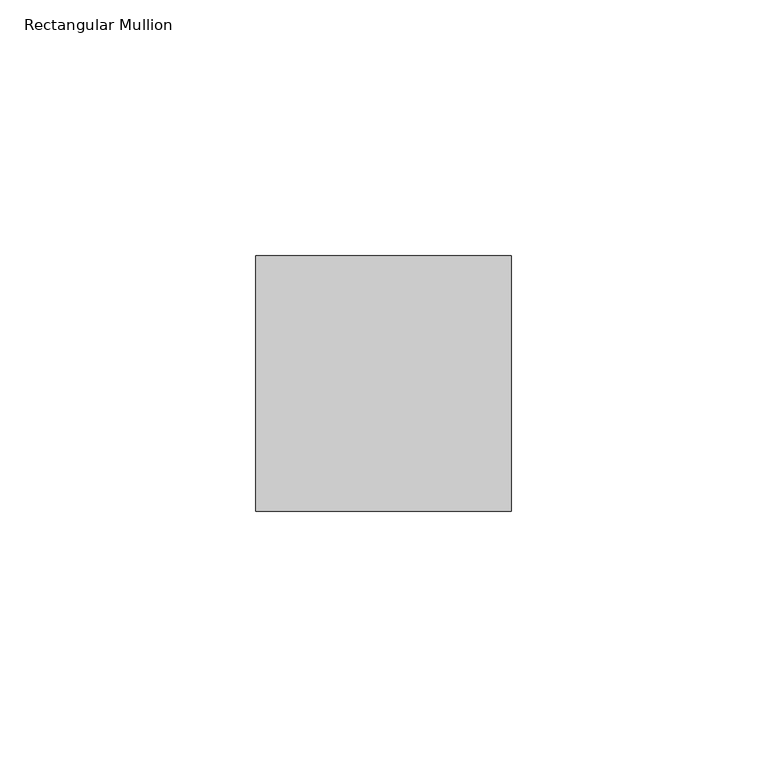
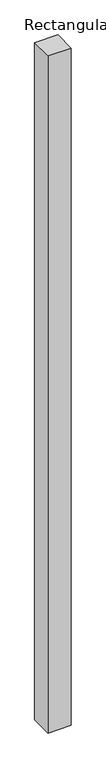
"""IFC4 building model written with IfcOpenShell, lengths in millimetres: member geometry, Rectangular Mullion : Mullion_Curtain Wall_Generic Showcase_50x50mm."""

from ifc_helpers import new_model, si_unit, frame, origin, place, context, project, spatial, polyline, outline, extrude, source, transform, mapped, element, save


def rectangular_mullion_081bc27d(model_context):
    return source(origin(), model_context, "Body", "SweptSolid", [
        extrude(outline(polyline([(25.0, 50.0), (25.0, 0.0), (-25.0, 0.0), (-25.0, 50.0), (25.0, 50.0)])), frame((0.0, 0.0, -1550.0), z_axis=(0.0, 0.0, 1.0), x_axis=(1.0, 0.0, 0.0)), (0.0, 0.0, 1.0), 1550.0),
    ])


if __name__ == "__main__":
    model = new_model("IFC4")
    model_context = context("Model", 3, world=origin())
    ifc_project = project(units=[si_unit("LENGTHUNIT", "METRE", prefix="MILLI")], contexts=[model_context])
    site = spatial("IfcSite", under=ifc_project)
    building = spatial("IfcBuilding", under=site)
    placement = place(None, origin())
    rectangular_mullion_shape = rectangular_mullion_081bc27d(model_context)
    element("IfcMember", 1, ObjectType="Rectangular Mullion : Mullion_Curtain Wall_Generic Showcase_50x50mm", at=placement, inside=building, context=model_context, shape_type="MappedRepresentation", body=[
        mapped(rectangular_mullion_shape, transform((0.0, 0.0, 0.0), x_axis=(1.0, 0.0, 0.0), y_axis=(0.0, 1.0, 0.0), z_axis=(0.0, 0.0, 1.0))),
    ])
    save(model, "model.ifc")
